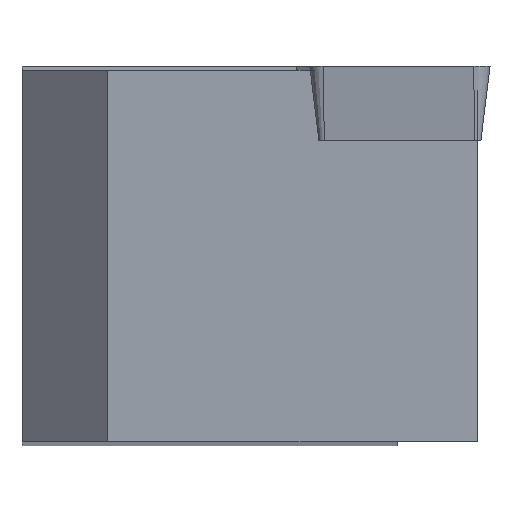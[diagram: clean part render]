
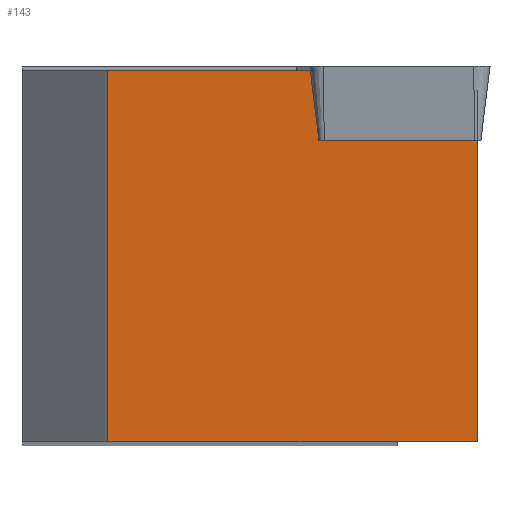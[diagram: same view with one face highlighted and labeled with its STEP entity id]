
A CAD part, top view. The second image highlights one B-rep face of the part: STEP entity #143.
In plain terms, the highlighted planar face has unit normal (-0.087, 0, 0.996).
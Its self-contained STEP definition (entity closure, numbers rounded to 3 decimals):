
#121=PLANE('',#509);
#143=ADVANCED_FACE('',(#166),#121,.F.);
#166=FACE_OUTER_BOUND('',#191,.T.);
#191=EDGE_LOOP('',(#373,#374,#375,#376));
#215=LINE('',#688,#257);
#227=LINE('',#712,#269);
#233=LINE('',#724,#275);
#234=LINE('',#726,#276);
#257=VECTOR('',#577,1.);
#269=VECTOR('',#599,1.);
#275=VECTOR('',#611,1.);
#276=VECTOR('',#614,1.);
#373=ORIENTED_EDGE('',*,*,#466,.T.);
#374=ORIENTED_EDGE('',*,*,#460,.F.);
#375=ORIENTED_EDGE('',*,*,#467,.T.);
#376=ORIENTED_EDGE('',*,*,#448,.F.);
#399=VERTEX_POINT('',#676);
#405=VERTEX_POINT('',#687);
#413=VERTEX_POINT('',#713);
#414=VERTEX_POINT('',#714);
#448=EDGE_CURVE('',#405,#399,#215,.T.);
#460=EDGE_CURVE('',#413,#414,#227,.T.);
#466=EDGE_CURVE('',#405,#414,#233,.T.);
#467=EDGE_CURVE('',#413,#399,#234,.T.);
#509=AXIS2_PLACEMENT_3D('',#727,#615,#616);
#577=DIRECTION('',(-0.996,0.,-0.087));
#599=DIRECTION('',(0.996,0.,0.087));
#611=DIRECTION('',(0.,1.,0.));
#614=DIRECTION('',(0.,-1.,0.));
#615=DIRECTION('',(0.087,0.,-0.996));
#616=DIRECTION('',(-0.996,0.,-0.087));
#676=CARTESIAN_POINT('',(-7.939,-10.,-2.339));
#687=CARTESIAN_POINT('',(11.787,-10.,-0.614));
#688=CARTESIAN_POINT('',(-29.773,-10.,-4.25));
#712=CARTESIAN_POINT('',(-12.262,9.8,-2.718));
#713=CARTESIAN_POINT('',(-7.939,9.8,-2.339));
#714=CARTESIAN_POINT('',(11.787,9.8,-0.614));
#724=CARTESIAN_POINT('',(11.787,-10.,-0.614));
#726=CARTESIAN_POINT('',(-7.939,-10.,-2.339));
#727=CARTESIAN_POINT('',(-29.773,-10.,-4.25));
